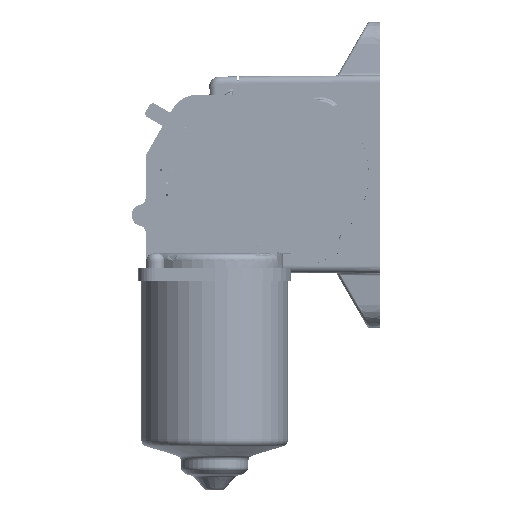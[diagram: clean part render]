
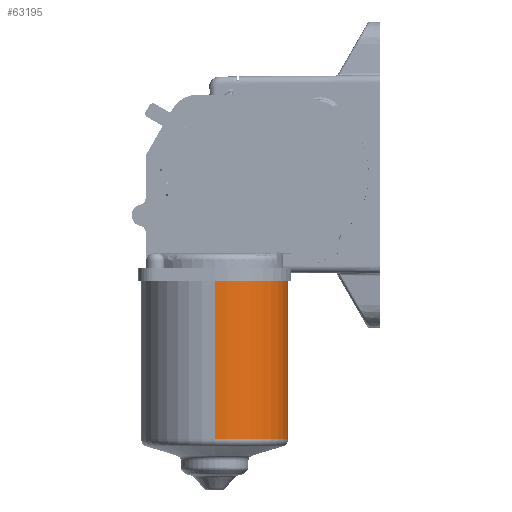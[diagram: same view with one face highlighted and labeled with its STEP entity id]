
A CAD part, top view. The second image highlights one B-rep face of the part: STEP entity #63195.
In plain terms, the highlighted cylindrical face has radius 30.3 mm (diameter 60.6 mm), a partial arc.
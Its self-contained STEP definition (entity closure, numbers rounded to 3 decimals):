
#5061 = DIRECTION ( 'NONE',  ( 0., 1., 0. ) ) ;
#5273 = EDGE_CURVE ( 'NONE', #89157, #31921, #140668, .T. ) ;
#8151 = AXIS2_PLACEMENT_3D ( 'NONE', #89637, #13479, #102430 ) ;
#12710 = DIRECTION ( 'NONE',  ( 0., 1., 0. ) ) ;
#13479 = DIRECTION ( 'NONE',  ( 0., 1., 0. ) ) ;
#21814 = VERTEX_POINT ( 'NONE', #101203 ) ;
#22308 = CARTESIAN_POINT ( 'NONE',  ( -23.859, 3.635, 38.545 ) ) ;
#24557 = CARTESIAN_POINT ( 'NONE',  ( -23.859, 3.635, 68.845 ) ) ;
#24588 = CIRCLE ( 'NONE', #8151, 30.3 ) ;
#28741 = LINE ( 'NONE', #29616, #152005 ) ;
#29616 = CARTESIAN_POINT ( 'NONE',  ( -23.859, 3.635, 8.245 ) ) ;
#31921 = VERTEX_POINT ( 'NONE', #24557 ) ;
#35022 = DIRECTION ( 'NONE',  ( 0., 1., 0. ) ) ;
#35492 = ORIENTED_EDGE ( 'NONE', *, *, #5273, .F. ) ;
#36405 = AXIS2_PLACEMENT_3D ( 'NONE', #81250, #5061, #94080 ) ;
#43049 = ORIENTED_EDGE ( 'NONE', *, *, #160503, .T. ) ;
#43209 = VECTOR ( 'NONE', #12710, 1000. ) ;
#46184 = CARTESIAN_POINT ( 'NONE',  ( -23.859, -61.947, 68.845 ) ) ;
#63195 = ADVANCED_FACE ( 'NONE', ( #139515 ), #97766, .T. ) ;
#65313 = EDGE_LOOP ( 'NONE', ( #43049, #67195, #138029, #35492 ) ) ;
#67195 = ORIENTED_EDGE ( 'NONE', *, *, #156580, .T. ) ;
#81250 = CARTESIAN_POINT ( 'NONE',  ( -23.859, 3.635, 38.545 ) ) ;
#88344 = CIRCLE ( 'NONE', #36405, 30.3 ) ;
#88860 = CARTESIAN_POINT ( 'NONE',  ( -23.859, 3.635, 68.845 ) ) ;
#89157 = VERTEX_POINT ( 'NONE', #46184 ) ;
#89637 = CARTESIAN_POINT ( 'NONE',  ( -23.859, -61.947, 38.545 ) ) ;
#94080 = DIRECTION ( 'NONE',  ( 0., 0., 1. ) ) ;
#97766 = CYLINDRICAL_SURFACE ( 'NONE', #97964, 30.3 ) ;
#97964 = AXIS2_PLACEMENT_3D ( 'NONE', #22308, #35022, #98423 ) ;
#98423 = DIRECTION ( 'NONE',  ( 0., 0., 1. ) ) ;
#100491 = VERTEX_POINT ( 'NONE', #143272 ) ;
#101203 = CARTESIAN_POINT ( 'NONE',  ( -23.859, -61.947, 8.245 ) ) ;
#102430 = DIRECTION ( 'NONE',  ( 0., 0., -1. ) ) ;
#119030 = DIRECTION ( 'NONE',  ( 0., 1., 0. ) ) ;
#138029 = ORIENTED_EDGE ( 'NONE', *, *, #156582, .F. ) ;
#139515 = FACE_OUTER_BOUND ( 'NONE', #65313, .T. ) ;
#140668 = LINE ( 'NONE', #88860, #43209 ) ;
#143272 = CARTESIAN_POINT ( 'NONE',  ( -23.859, 3.635, 8.245 ) ) ;
#152005 = VECTOR ( 'NONE', #119030, 1000. ) ;
#156580 = EDGE_CURVE ( 'NONE', #21814, #100491, #28741, .T. ) ;
#156582 = EDGE_CURVE ( 'NONE', #31921, #100491, #88344, .T. ) ;
#160503 = EDGE_CURVE ( 'NONE', #89157, #21814, #24588, .T. ) ;
